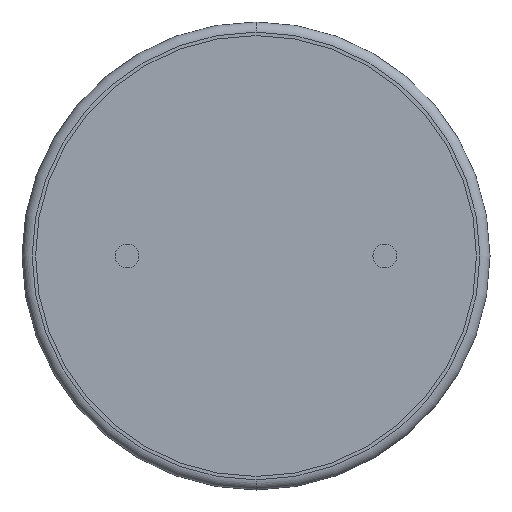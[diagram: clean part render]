
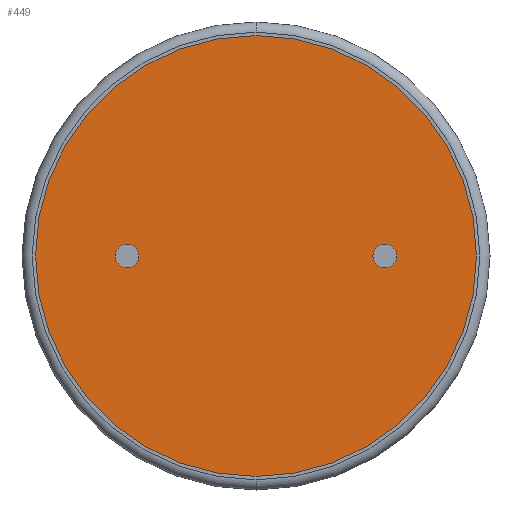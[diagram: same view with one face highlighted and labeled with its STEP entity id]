
A CAD part, front view. The second image highlights one B-rep face of the part: STEP entity #449.
In plain terms, the highlighted planar face has unit normal (0, -1, 0).
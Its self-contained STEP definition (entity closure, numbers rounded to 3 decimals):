
#14 = DIRECTION ( 'NONE',  ( 0., -1., 0. ) ) ;
#15 = DIRECTION ( 'NONE',  ( 0., -1., 0. ) ) ;
#36 = AXIS2_PLACEMENT_3D ( 'NONE', #348, #14, #456 ) ;
#49 = DIRECTION ( 'NONE',  ( 0., -1., 0. ) ) ;
#71 = VERTEX_POINT ( 'NONE', #230 ) ;
#114 = AXIS2_PLACEMENT_3D ( 'NONE', #610, #49, #518 ) ;
#117 = CARTESIAN_POINT ( 'NONE',  ( 0., 0.3, 0. ) ) ;
#126 = FACE_OUTER_BOUND ( 'NONE', #507, .T. ) ;
#160 = EDGE_CURVE ( 'NONE', #574, #71, #482, .T. ) ;
#230 = CARTESIAN_POINT ( 'NONE',  ( 0., 0.3, 6.5 ) ) ;
#254 = CARTESIAN_POINT ( 'NONE',  ( 0., 0.3, -6.5 ) ) ;
#265 = CIRCLE ( 'NONE', #363, 6.5 ) ;
#278 = PLANE ( 'NONE',  #114 ) ;
#311 = DIRECTION ( 'NONE',  ( 0., 0., -1. ) ) ;
#316 = ORIENTED_EDGE ( 'NONE', *, *, #160, .T. ) ;
#319 = EDGE_CURVE ( 'NONE', #71, #574, #265, .T. ) ;
#348 = CARTESIAN_POINT ( 'NONE',  ( 0., 0.3, 0. ) ) ;
#349 = ORIENTED_EDGE ( 'NONE', *, *, #319, .T. ) ;
#363 = AXIS2_PLACEMENT_3D ( 'NONE', #117, #15, #311 ) ;
#449 = ADVANCED_FACE ( 'NONE', ( #126 ), #278, .T. ) ;
#456 = DIRECTION ( 'NONE',  ( 0., 0., -1. ) ) ;
#482 = CIRCLE ( 'NONE', #36, 6.5 ) ;
#507 = EDGE_LOOP ( 'NONE', ( #316, #349 ) ) ;
#518 = DIRECTION ( 'NONE',  ( 0., 0., -1. ) ) ;
#574 = VERTEX_POINT ( 'NONE', #254 ) ;
#610 = CARTESIAN_POINT ( 'NONE',  ( 0., 0.3, 0. ) ) ;
